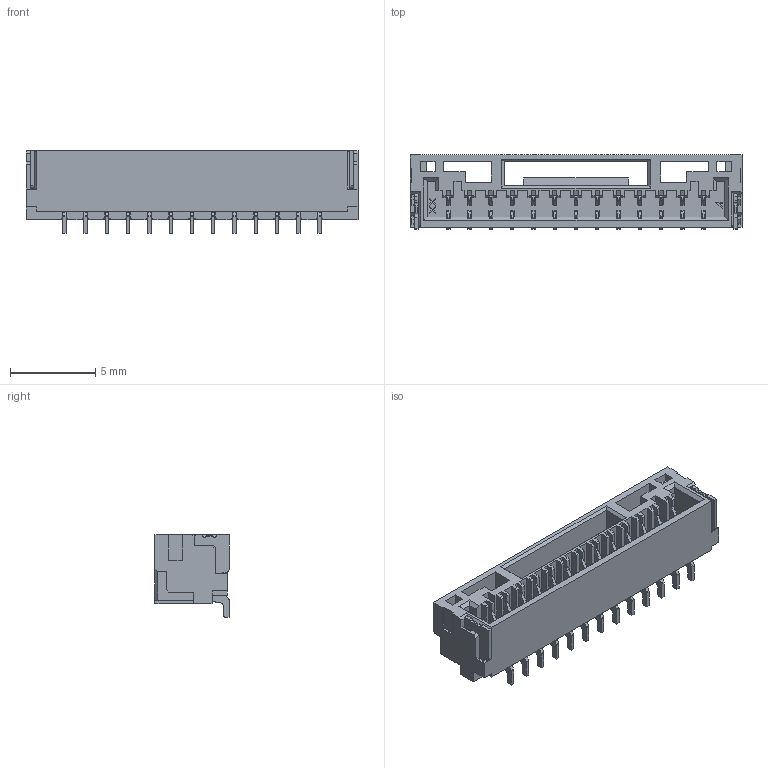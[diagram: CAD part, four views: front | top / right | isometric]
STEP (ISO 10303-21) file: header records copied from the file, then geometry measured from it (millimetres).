
FILE_DESCRIPTION((''),'2;1');
FILE_NAME('S-51451-013XX-XXX','2020-09-02T',('k95347'),(''),'PRO/ENGINEER BY PARAMETRIC TECHNOLOGY CORPORATION, 2015070','PRO/ENGINEER BY PARAMETRIC TECHNOLOGY CORPORATION, 2015070','');
FILE_SCHEMA(('CONFIG_CONTROL_DESIGN'));
Length unit declared in the file: millimetre
Products named in the file (1): S-51451-013XX-XXX
Bounding box: 19.5 x 4.35 x 4.85 mm (x, y, z)
Volume: 186.6 mm3; surface area: 863.9 mm2
Topology: 1 solids, 1 shells, 1494 faces, 4703 edges, 3102 vertices
Faces by surface type: plane 1129, cylinder 365
Entity records: 52401 total; most frequent: CARTESIAN_POINT 10165, ORIENTED_EDGE 9406, DIRECTION 8213, EDGE_CURVE 4703, VECTOR 3789, LINE 3789, VERTEX_POINT 3102, AXIS2_PLACEMENT_3D 2212
